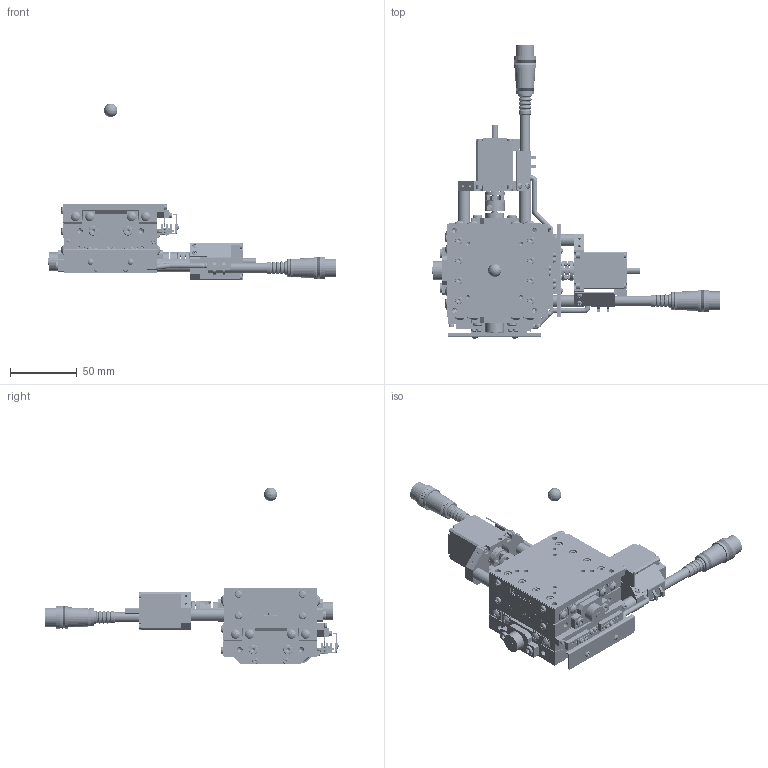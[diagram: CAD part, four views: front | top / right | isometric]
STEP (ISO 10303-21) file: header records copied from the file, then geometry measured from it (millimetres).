
FILE_DESCRIPTION( (''), '2;1');
FILE_NAME ('SA07A-R2S01-RRR.stp','2022-01-24T14:34:02',(''),(''),'spGate 17.5.5','','');
FILE_SCHEMA (('AUTOMOTIVE_DESIGN'));
Length unit declared in the file: millimetre
Products named in the file (13): Assembly; SA07A-R2S01-RRR-prt0; SA07A-R2S01-RRR-prt1; SA07A-R2S01-RRR-prt2; SA07A-R2S01-RRR-prt3; SA07A-R2S01-RRR-prt4; SA07A-R2S01-RRR-prt5; SA07A-R2S01-RRR-prt6; SA07A-R2S01-RRR-prt7; SA07A-R2S01-RRR-prt8; SA07A-R2S01-RRR-prt9; SA07A-R2S01-RRR-prt10; SA07A-R2S01-RRR-prt11
Assembly tree (12 placements, depth 2):
  Assembly
    SA07A-R2S01-RRR-prt0
    SA07A-R2S01-RRR-prt1
    SA07A-R2S01-RRR-prt2
    SA07A-R2S01-RRR-prt3
    SA07A-R2S01-RRR-prt4
    SA07A-R2S01-RRR-prt5
    SA07A-R2S01-RRR-prt6
    SA07A-R2S01-RRR-prt7
    SA07A-R2S01-RRR-prt8
    SA07A-R2S01-RRR-prt9
    SA07A-R2S01-RRR-prt10
    SA07A-R2S01-RRR-prt11
Bounding box: 216 x 220.18 x 132.5 mm (x, y, z)
Volume: 366884.8 mm3; surface area: 127728.2 mm2
Topology: 12 solids, 20 shells, 5998 faces, 15288 edges, 9589 vertices
Faces by surface type: plane 3716, cylinder 1416, bspline 772, sphere 94
Entity records: 306783 total; most frequent: CARTESIAN_POINT 44046, ORIENTED_EDGE 30190, DIRECTION 28350, COLOUR_RGB 21103, PRESENTATION_STYLE_ASSIGNMENT 21103, STYLED_ITEM 21103, EDGE_CURVE 15095, DRAUGHTING_PRE_DEFINED_CURVE_FONT 15095
